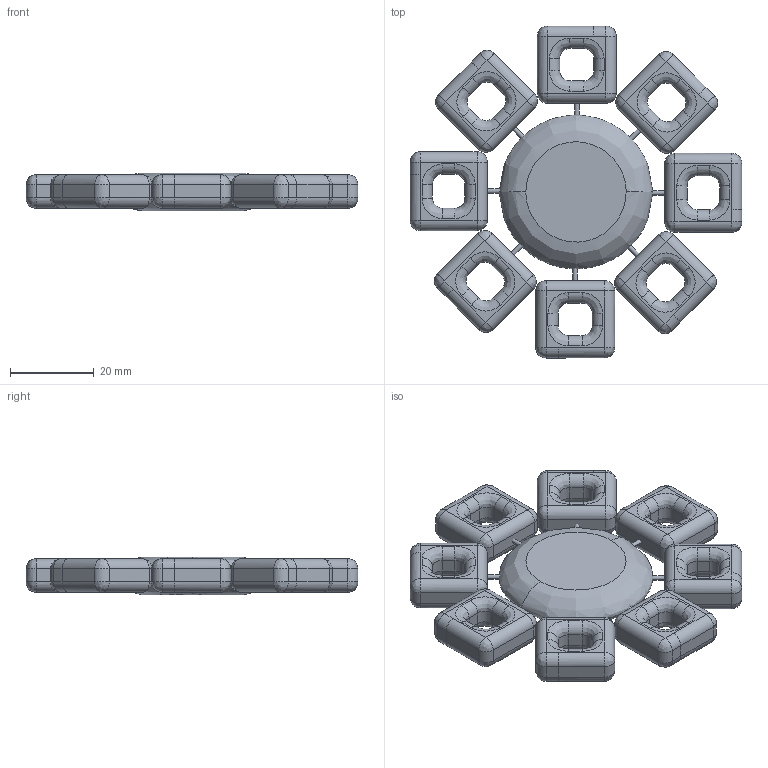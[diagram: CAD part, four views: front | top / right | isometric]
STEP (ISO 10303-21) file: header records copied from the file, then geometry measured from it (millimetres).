
FILE_DESCRIPTION(/* description */ (''),/* implementation_level */ '2;1');
FILE_NAME(/* name */ '꽃압정~1',/* time_stamp */ '2019-09-18T18:18:46+09:00',/* author */ (''),/* organization */ (''),/* preprocessor_version */ 'ST-DEVELOPER v16.5',/* originating_system */ '',/* authorisation */ '');
FILE_SCHEMA (('AUTOMOTIVE_DESIGN'));
Length unit declared in the file: millimetre
Products named in the file (1): Document
Bounding box: 79.35 x 79.35 x 8.99 mm (x, y, z)
Volume: 24142.1 mm3; surface area: 12088.6 mm2
Topology: 25 solids, 33 shells, 508 faces, 1096 edges, 662 vertices
Faces by surface type: bspline 394, plane 114
Entity records: 14122 total; most frequent: CARTESIAN_POINT 7908, ORIENTED_EDGE 2044, EDGE_CURVE 1038, VERTEX_POINT 588, EDGE_LOOP 524, ADVANCED_FACE 508, FACE_OUTER_BOUND 508, B_SPLINE_CURVE_WITH_KNOTS 472
